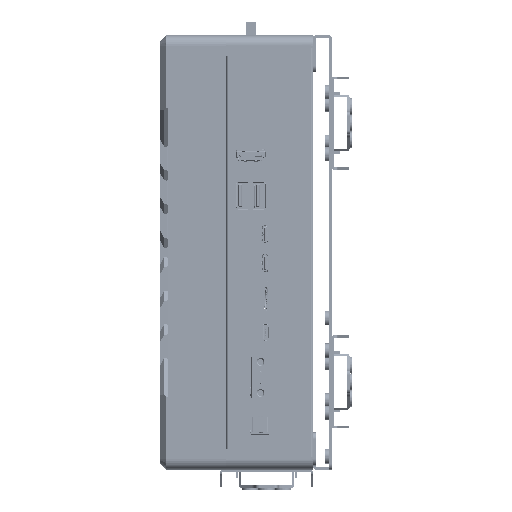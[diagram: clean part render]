
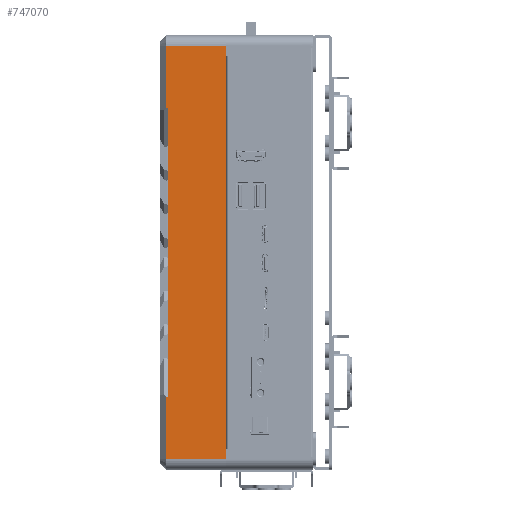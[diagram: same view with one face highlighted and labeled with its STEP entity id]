
A CAD part, left-side view. The second image highlights one B-rep face of the part: STEP entity #747070.
In plain terms, the highlighted planar face has unit normal (-1, 0, 0).
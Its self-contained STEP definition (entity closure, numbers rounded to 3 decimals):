
#35361 = ORIENTED_EDGE ( 'NONE', *, *, #1114009, .T. ) ;
#43304 = LINE ( 'NONE', #64210, #997070 ) ;
#55962 = FACE_OUTER_BOUND ( 'NONE', #576915, .T. ) ;
#64210 = CARTESIAN_POINT ( 'NONE',  ( -165.447, 23.601, -100. ) ) ;
#94969 = LINE ( 'NONE', #678768, #463925 ) ;
#117948 = VECTOR ( 'NONE', #1192917, 1000. ) ;
#137732 = ORIENTED_EDGE ( 'NONE', *, *, #271919, .F. ) ;
#158843 = DIRECTION ( 'NONE',  ( 0., 0., -1. ) ) ;
#190288 = VECTOR ( 'NONE', #1266160, 1000. ) ;
#225932 = DIRECTION ( 'NONE',  ( 0., 1., 0. ) ) ;
#271919 = EDGE_CURVE ( 'NONE', #801559, #518981, #1185831, .T. ) ;
#298366 = EDGE_CURVE ( 'NONE', #515930, #822333, #859350, .T. ) ;
#328426 = LINE ( 'NONE', #388587, #190288 ) ;
#352711 = ORIENTED_EDGE ( 'NONE', *, *, #1114668, .T. ) ;
#373345 = DIRECTION ( 'NONE',  ( 0., 1., 0. ) ) ;
#388587 = CARTESIAN_POINT ( 'NONE',  ( -165.447, -5.399, 105. ) ) ;
#392075 = DIRECTION ( 'NONE',  ( 0., -1., 0. ) ) ;
#425114 = LINE ( 'NONE', #990790, #117948 ) ;
#443111 = CARTESIAN_POINT ( 'NONE',  ( -165.447, 23.601, 100. ) ) ;
#452023 = AXIS2_PLACEMENT_3D ( 'NONE', #816747, #1113408, #515729 ) ;
#463925 = VECTOR ( 'NONE', #373345, 1000. ) ;
#503703 = CARTESIAN_POINT ( 'NONE',  ( -165.447, -5.399, -100. ) ) ;
#515729 = DIRECTION ( 'NONE',  ( 0., 0., -1. ) ) ;
#515930 = VERTEX_POINT ( 'NONE', #1113121 ) ;
#518981 = VERTEX_POINT ( 'NONE', #1140651 ) ;
#527191 = DIRECTION ( 'NONE',  ( 0., 0., -1. ) ) ;
#542989 = EDGE_CURVE ( 'NONE', #822333, #828773, #43304, .T. ) ;
#576915 = EDGE_LOOP ( 'NONE', ( #582925, #737397, #352711, #621449, #937785, #652114, #137732, #35361 ) ) ;
#582925 = ORIENTED_EDGE ( 'NONE', *, *, #298366, .T. ) ;
#596214 = DIRECTION ( 'NONE',  ( 0., 1., 0. ) ) ;
#597606 = VECTOR ( 'NONE', #596214, 1000. ) ;
#621449 = ORIENTED_EDGE ( 'NONE', *, *, #1272163, .F. ) ;
#652114 = ORIENTED_EDGE ( 'NONE', *, *, #694839, .T. ) ;
#678349 = CARTESIAN_POINT ( 'NONE',  ( -165.447, 22.601, -70. ) ) ;
#678768 = CARTESIAN_POINT ( 'NONE',  ( -165.447, -5.399, 100. ) ) ;
#694839 = EDGE_CURVE ( 'NONE', #738864, #518981, #425114, .T. ) ;
#707553 = LINE ( 'NONE', #1116356, #830847 ) ;
#712080 = CARTESIAN_POINT ( 'NONE',  ( -165.447, 22.601, 70. ) ) ;
#726439 = PLANE ( 'NONE',  #452023 ) ;
#737397 = ORIENTED_EDGE ( 'NONE', *, *, #542989, .T. ) ;
#738864 = VERTEX_POINT ( 'NONE', #443111 ) ;
#747070 = ADVANCED_FACE ( 'NONE', ( #55962 ), #726439, .F. ) ;
#801559 = VERTEX_POINT ( 'NONE', #1093245 ) ;
#816747 = CARTESIAN_POINT ( 'NONE',  ( -165.447, -5.399, 105. ) ) ;
#822333 = VERTEX_POINT ( 'NONE', #1008123 ) ;
#828773 = VERTEX_POINT ( 'NONE', #1011139 ) ;
#830847 = VECTOR ( 'NONE', #527191, 1000. ) ;
#831683 = VECTOR ( 'NONE', #225932, 1000. ) ;
#859350 = LINE ( 'NONE', #678349, #597606 ) ;
#903350 = CARTESIAN_POINT ( 'NONE',  ( -165.447, -5.399, 100. ) ) ;
#904537 = CARTESIAN_POINT ( 'NONE',  ( -165.447, -5.399, -100. ) ) ;
#937785 = ORIENTED_EDGE ( 'NONE', *, *, #1210564, .T. ) ;
#990790 = CARTESIAN_POINT ( 'NONE',  ( -165.447, 23.601, -100. ) ) ;
#997070 = VECTOR ( 'NONE', #158843, 1000. ) ;
#999953 = LINE ( 'NONE', #503703, #1075042 ) ;
#1008123 = CARTESIAN_POINT ( 'NONE',  ( -165.447, 23.601, -70. ) ) ;
#1011139 = CARTESIAN_POINT ( 'NONE',  ( -165.447, 23.601, -100. ) ) ;
#1017656 = VERTEX_POINT ( 'NONE', #904537 ) ;
#1075042 = VECTOR ( 'NONE', #392075, 1000. ) ;
#1093245 = CARTESIAN_POINT ( 'NONE',  ( -165.447, 22.601, 70. ) ) ;
#1113121 = CARTESIAN_POINT ( 'NONE',  ( -165.447, 22.601, -70. ) ) ;
#1113408 = DIRECTION ( 'NONE',  ( 1., 0., 0. ) ) ;
#1114009 = EDGE_CURVE ( 'NONE', #801559, #515930, #707553, .T. ) ;
#1114668 = EDGE_CURVE ( 'NONE', #828773, #1017656, #999953, .T. ) ;
#1116356 = CARTESIAN_POINT ( 'NONE',  ( -165.447, 22.601, 70. ) ) ;
#1140651 = CARTESIAN_POINT ( 'NONE',  ( -165.447, 23.601, 70. ) ) ;
#1185831 = LINE ( 'NONE', #712080, #831683 ) ;
#1192917 = DIRECTION ( 'NONE',  ( 0., 0., -1. ) ) ;
#1202028 = VERTEX_POINT ( 'NONE', #903350 ) ;
#1210564 = EDGE_CURVE ( 'NONE', #1202028, #738864, #94969, .T. ) ;
#1266160 = DIRECTION ( 'NONE',  ( 0., 0., -1. ) ) ;
#1272163 = EDGE_CURVE ( 'NONE', #1202028, #1017656, #328426, .T. ) ;
